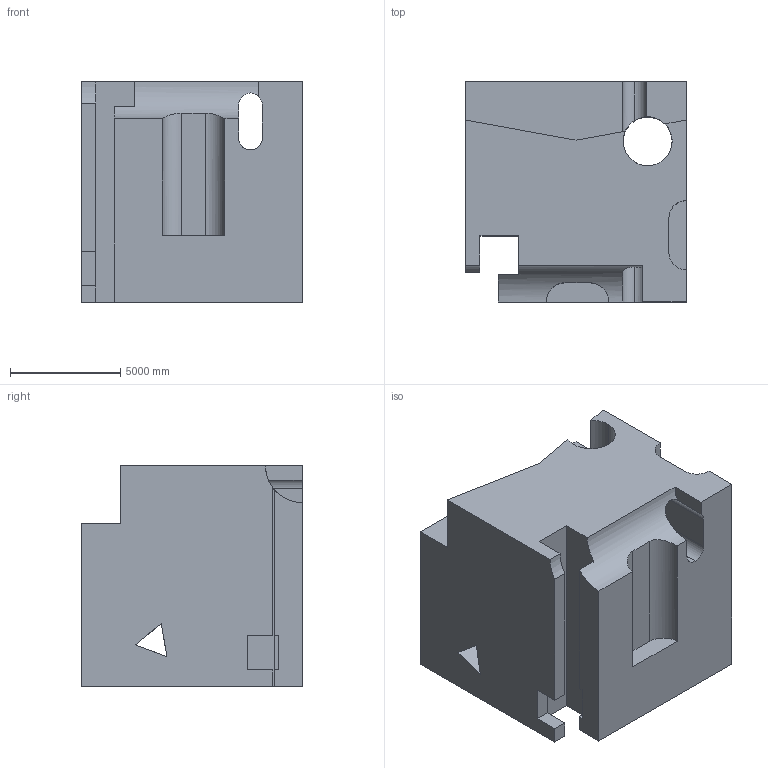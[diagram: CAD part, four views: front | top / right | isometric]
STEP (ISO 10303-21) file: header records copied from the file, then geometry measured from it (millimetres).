
FILE_DESCRIPTION (( 'STEP AP203' ), '1' );
FILE_NAME ('1955.STEP', '2022-08-23T09:55:52', ( 'user' ), ( '' ), 'SwSTEP 2.0', 'SolidWorks 2021', '' );
FILE_SCHEMA (( 'CONFIG_CONTROL_DESIGN' ));
Length unit declared in the file: centimetre
Products named in the file (1): 1955
Bounding box: 10000 x 10000 x 10000 mm (x, y, z)
Volume: 794979751292.4 mm3; surface area: 750237408.8 mm2
Topology: 1 solids, 1 shells, 50 faces, 159 edges, 106 vertices
Faces by surface type: plane 36, cylinder 14
Entity records: 2429 total; most frequent: CARTESIAN_POINT 954, ORIENTED_EDGE 318, DIRECTION 265, EDGE_CURVE 159, LINE 117, VECTOR 117, VERTEX_POINT 106, AXIS2_PLACEMENT_3D 74
